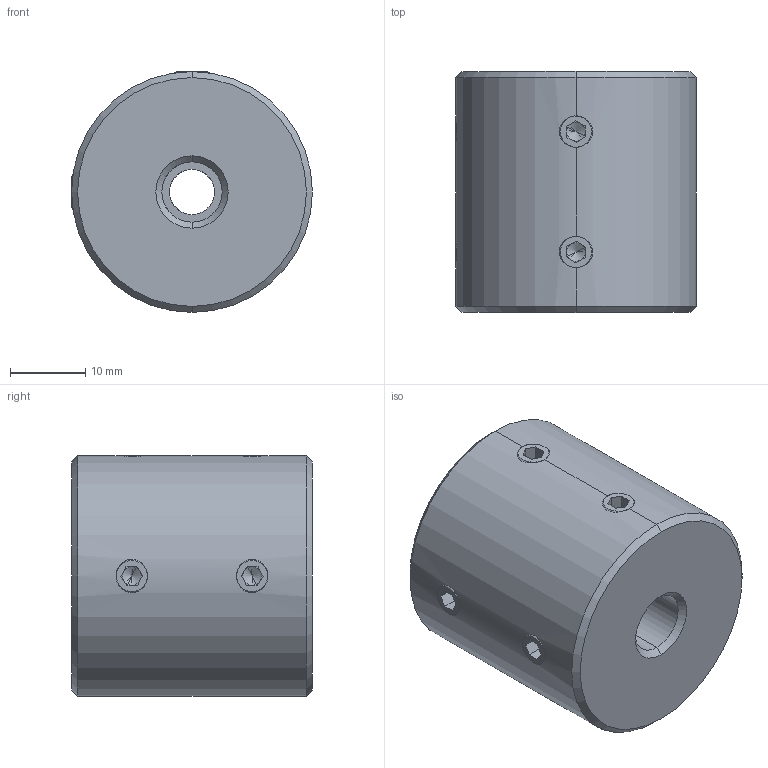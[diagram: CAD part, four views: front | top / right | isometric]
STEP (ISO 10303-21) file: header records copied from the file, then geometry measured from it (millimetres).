
FILE_DESCRIPTION (( 'STEP AP214' ), '1' );
FILE_NAME ('LL-D-D32L32-6-8½¨Ä£.STEP', '2022-07-22T11:17:03', ( '' ), ( '' ), 'SwSTEP 2.0', 'SolidWorks 2022', '' );
FILE_SCHEMA (( 'AUTOMOTIVE_DESIGN' ));
Length unit declared in the file: millimetre
Products named in the file (1): LL-D-D32L32-6-8膘耀
Bounding box: 32 x 32 x 32 mm (x, y, z)
Volume: 24093 mm3; surface area: 5710.5 mm2
Topology: 1 solids, 1 shells, 113 faces, 286 edges, 176 vertices
Faces by surface type: plane 59, cone 32, cylinder 22
Entity records: 3754 total; most frequent: CARTESIAN_POINT 1044, DIRECTION 558, ORIENTED_EDGE 556, EDGE_CURVE 278, AXIS2_PLACEMENT_3D 206, VERTEX_POINT 176, VECTOR 146, LINE 146
